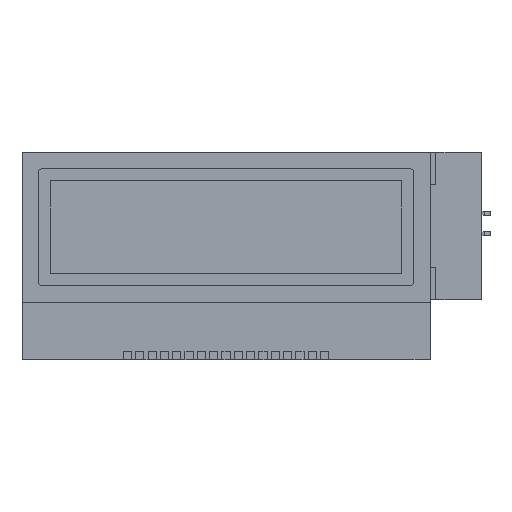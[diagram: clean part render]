
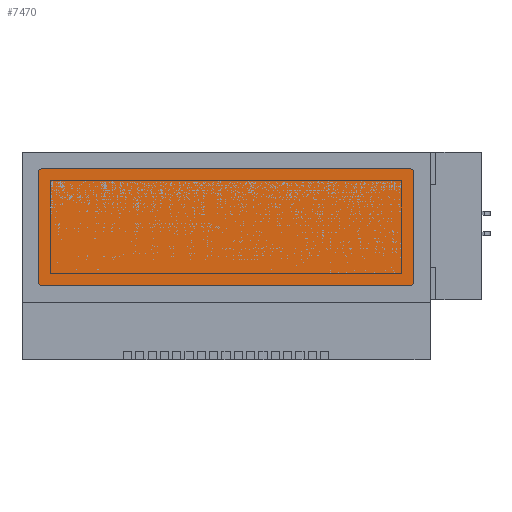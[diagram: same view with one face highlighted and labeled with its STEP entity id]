
A CAD part, top view. The second image highlights one B-rep face of the part: STEP entity #7470.
In plain terms, the highlighted planar face has unit normal (0, 0, 1).
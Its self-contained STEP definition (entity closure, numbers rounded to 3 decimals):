
#188 = ORIENTED_EDGE ( 'NONE', *, *, #8013, .T. ) ;
#194 = AXIS2_PLACEMENT_3D ( 'NONE', #8008, #7294, #4421 ) ;
#1106 = FACE_OUTER_BOUND ( 'NONE', #9947, .T. ) ;
#1345 = ORIENTED_EDGE ( 'NONE', *, *, #9373, .T. ) ;
#1773 = EDGE_CURVE ( 'NONE', #7679, #8295, #6709, .T. ) ;
#1804 = AXIS2_PLACEMENT_3D ( 'NONE', #3597, #2784, #6728 ) ;
#1911 = CARTESIAN_POINT ( 'NONE',  ( -22.35, -3.65, 2. ) ) ;
#2024 = CARTESIAN_POINT ( 'NONE',  ( -22.85, 10.15, 2. ) ) ;
#2280 = DIRECTION ( 'NONE',  ( 0., 0., 1. ) ) ;
#2541 = VERTEX_POINT ( 'NONE', #6821 ) ;
#2732 = CARTESIAN_POINT ( 'NONE',  ( -22.85, -3.15, 2. ) ) ;
#2784 = DIRECTION ( 'NONE',  ( 0., 0., 1. ) ) ;
#2873 = VERTEX_POINT ( 'NONE', #4770 ) ;
#3170 = EDGE_CURVE ( 'NONE', #8295, #2873, #6803, .T. ) ;
#3326 = CARTESIAN_POINT ( 'NONE',  ( 22.85, 10.15, 2. ) ) ;
#3597 = CARTESIAN_POINT ( 'NONE',  ( -22.35, 10.15, 2. ) ) ;
#3800 = DIRECTION ( 'NONE',  ( 0., -1., 0. ) ) ;
#3844 = VERTEX_POINT ( 'NONE', #7981 ) ;
#4015 = VECTOR ( 'NONE', #4290, 1000. ) ;
#4215 = EDGE_CURVE ( 'NONE', #6284, #7803, #11152, .T. ) ;
#4290 = DIRECTION ( 'NONE',  ( 0., 1., 0. ) ) ;
#4421 = DIRECTION ( 'NONE',  ( 1., 0., 0. ) ) ;
#4428 = ORIENTED_EDGE ( 'NONE', *, *, #7717, .T. ) ;
#4770 = CARTESIAN_POINT ( 'NONE',  ( 22.35, -3.65, 2. ) ) ;
#4972 = DIRECTION ( 'NONE',  ( 0., 0., 1. ) ) ;
#5302 = VERTEX_POINT ( 'NONE', #11789 ) ;
#6283 = DIRECTION ( 'NONE',  ( 1., 0., 0. ) ) ;
#6284 = VERTEX_POINT ( 'NONE', #11800 ) ;
#6593 = CARTESIAN_POINT ( 'NONE',  ( -22.35, 10.65, 2. ) ) ;
#6709 = CIRCLE ( 'NONE', #194, 0.5 ) ;
#6728 = DIRECTION ( 'NONE',  ( 1., 0., 0. ) ) ;
#6803 = LINE ( 'NONE', #1911, #11207 ) ;
#6821 = CARTESIAN_POINT ( 'NONE',  ( 22.85, -3.15, 2. ) ) ;
#7294 = DIRECTION ( 'NONE',  ( 0., 0., 1. ) ) ;
#7470 = ADVANCED_FACE ( 'NONE', ( #1106 ), #10944, .T. ) ;
#7536 = ORIENTED_EDGE ( 'NONE', *, *, #3170, .T. ) ;
#7545 = DIRECTION ( 'NONE',  ( -1., 0., 0. ) ) ;
#7582 = VECTOR ( 'NONE', #7545, 1000. ) ;
#7679 = VERTEX_POINT ( 'NONE', #2732 ) ;
#7717 = EDGE_CURVE ( 'NONE', #5302, #6284, #10081, .T. ) ;
#7764 = CIRCLE ( 'NONE', #10618, 0.5 ) ;
#7803 = VERTEX_POINT ( 'NONE', #2024 ) ;
#7804 = ORIENTED_EDGE ( 'NONE', *, *, #10426, .T. ) ;
#7938 = CARTESIAN_POINT ( 'NONE',  ( 22.35, -3.15, 2. ) ) ;
#7981 = CARTESIAN_POINT ( 'NONE',  ( 22.85, 10.15, 2. ) ) ;
#8008 = CARTESIAN_POINT ( 'NONE',  ( -22.35, -3.15, 2. ) ) ;
#8013 = EDGE_CURVE ( 'NONE', #2541, #3844, #9050, .T. ) ;
#8139 = LINE ( 'NONE', #8512, #10331 ) ;
#8145 = ORIENTED_EDGE ( 'NONE', *, *, #1773, .T. ) ;
#8295 = VERTEX_POINT ( 'NONE', #10824 ) ;
#8512 = CARTESIAN_POINT ( 'NONE',  ( -22.85, 10.15, 2. ) ) ;
#8603 = EDGE_CURVE ( 'NONE', #7803, #7679, #8139, .T. ) ;
#8885 = DIRECTION ( 'NONE',  ( 1., 0., 0. ) ) ;
#9050 = LINE ( 'NONE', #3326, #4015 ) ;
#9064 = ORIENTED_EDGE ( 'NONE', *, *, #8603, .T. ) ;
#9070 = AXIS2_PLACEMENT_3D ( 'NONE', #10594, #4972, #11547 ) ;
#9373 = EDGE_CURVE ( 'NONE', #3844, #5302, #10871, .T. ) ;
#9626 = DIRECTION ( 'NONE',  ( 1., 0., 0. ) ) ;
#9947 = EDGE_LOOP ( 'NONE', ( #7804, #188, #1345, #4428, #11619, #9064, #8145, #7536 ) ) ;
#9949 = AXIS2_PLACEMENT_3D ( 'NONE', #10009, #11888, #6283 ) ;
#10009 = CARTESIAN_POINT ( 'NONE',  ( 22.35, -3.15, 2. ) ) ;
#10081 = LINE ( 'NONE', #6593, #7582 ) ;
#10331 = VECTOR ( 'NONE', #3800, 1000. ) ;
#10426 = EDGE_CURVE ( 'NONE', #2873, #2541, #7764, .T. ) ;
#10594 = CARTESIAN_POINT ( 'NONE',  ( 22.35, 10.15, 2. ) ) ;
#10618 = AXIS2_PLACEMENT_3D ( 'NONE', #7938, #2280, #8885 ) ;
#10824 = CARTESIAN_POINT ( 'NONE',  ( -22.35, -3.65, 2. ) ) ;
#10871 = CIRCLE ( 'NONE', #9070, 0.5 ) ;
#10944 = PLANE ( 'NONE',  #9949 ) ;
#11152 = CIRCLE ( 'NONE', #1804, 0.5 ) ;
#11207 = VECTOR ( 'NONE', #9626, 1000. ) ;
#11547 = DIRECTION ( 'NONE',  ( -1., 0., 0. ) ) ;
#11619 = ORIENTED_EDGE ( 'NONE', *, *, #4215, .T. ) ;
#11789 = CARTESIAN_POINT ( 'NONE',  ( 22.35, 10.65, 2. ) ) ;
#11800 = CARTESIAN_POINT ( 'NONE',  ( -22.35, 10.65, 2. ) ) ;
#11888 = DIRECTION ( 'NONE',  ( 0., 0., 1. ) ) ;
